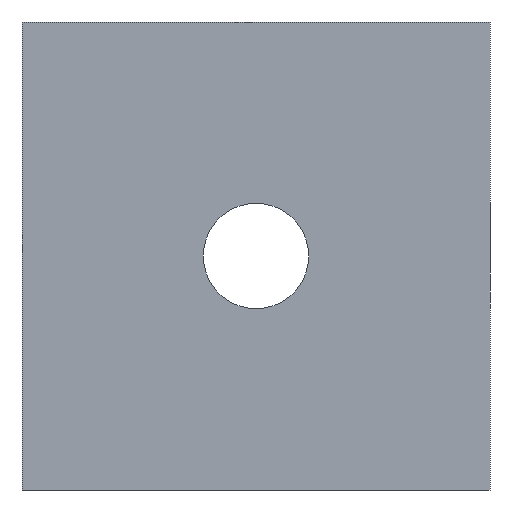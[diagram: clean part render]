
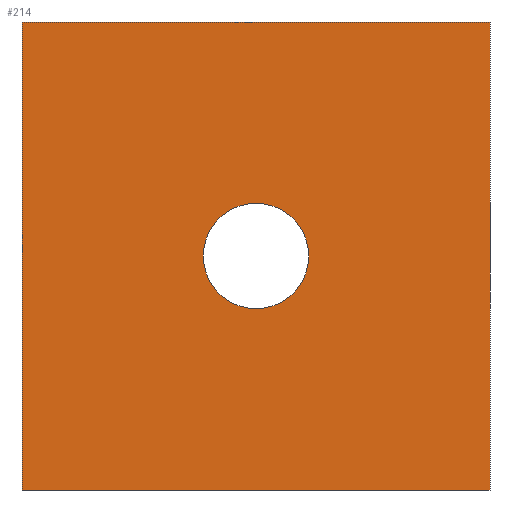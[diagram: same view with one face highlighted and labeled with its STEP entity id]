
A CAD part, left-side view. The second image highlights one B-rep face of the part: STEP entity #214.
In plain terms, the highlighted planar face has unit normal (-1, 0, 0).
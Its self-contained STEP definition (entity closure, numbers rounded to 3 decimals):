
#5 = CARTESIAN_POINT ( 'NONE',  ( 0., 20., 24.5 ) ) ;
#14 = CARTESIAN_POINT ( 'NONE',  ( 0., 0., 0. ) ) ;
#20 = CARTESIAN_POINT ( 'NONE',  ( 0., 40., 0. ) ) ;
#32 = DIRECTION ( 'NONE',  ( 0., 0., 1. ) ) ;
#67 = DIRECTION ( 'NONE',  ( 0., -1., 0. ) ) ;
#82 = CARTESIAN_POINT ( 'NONE',  ( 0., 40., 40. ) ) ;
#87 = DIRECTION ( 'NONE',  ( 1., 0., 0. ) ) ;
#92 = DIRECTION ( 'NONE',  ( -1., 0., 0. ) ) ;
#94 = PLANE ( 'NONE',  #439 ) ;
#108 = CARTESIAN_POINT ( 'NONE',  ( 0., 0., 40. ) ) ;
#111 = DIRECTION ( 'NONE',  ( 0., 0., 1. ) ) ;
#112 = CARTESIAN_POINT ( 'NONE',  ( 0., 20., 20. ) ) ;
#123 = CARTESIAN_POINT ( 'NONE',  ( 0., 0., 0. ) ) ;
#128 = CARTESIAN_POINT ( 'NONE',  ( 0., 0., 0. ) ) ;
#136 = CARTESIAN_POINT ( 'NONE',  ( 0., 20., 15.5 ) ) ;
#150 = CARTESIAN_POINT ( 'NONE',  ( 0., 0., 0. ) ) ;
#152 = DIRECTION ( 'NONE',  ( 0., 0., -1. ) ) ;
#201 = FACE_OUTER_BOUND ( 'NONE', #262, .T. ) ;
#214 = ADVANCED_FACE ( 'NONE', ( #201, #359 ), #94, .T. ) ;
#227 = VERTEX_POINT ( 'NONE', #82 ) ;
#232 = VERTEX_POINT ( 'NONE', #20 ) ;
#235 = VERTEX_POINT ( 'NONE', #123 ) ;
#252 = ORIENTED_EDGE ( 'NONE', *, *, #402, .T. ) ;
#255 = ORIENTED_EDGE ( 'NONE', *, *, #499, .T. ) ;
#262 = EDGE_LOOP ( 'NONE', ( #252, #299, #279, #255 ) ) ;
#277 = ORIENTED_EDGE ( 'NONE', *, *, #420, .T. ) ;
#279 = ORIENTED_EDGE ( 'NONE', *, *, #473, .T. ) ;
#280 = VERTEX_POINT ( 'NONE', #5 ) ;
#291 = EDGE_LOOP ( 'NONE', ( #296, #277 ) ) ;
#296 = ORIENTED_EDGE ( 'NONE', *, *, #474, .T. ) ;
#299 = ORIENTED_EDGE ( 'NONE', *, *, #460, .T. ) ;
#304 = VERTEX_POINT ( 'NONE', #108 ) ;
#312 = VERTEX_POINT ( 'NONE', #136 ) ;
#336 = VECTOR ( 'NONE', #67, 1000. ) ;
#338 = LINE ( 'NONE', #556, #380 ) ;
#359 = FACE_BOUND ( 'NONE', #291, .T. ) ;
#365 = LINE ( 'NONE', #14, #336 ) ;
#370 = VECTOR ( 'NONE', #542, 1000. ) ;
#372 = LINE ( 'NONE', #128, #393 ) ;
#376 = CIRCLE ( 'NONE', #452, 4.5 ) ;
#380 = VECTOR ( 'NONE', #547, 1000. ) ;
#385 = LINE ( 'NONE', #559, #370 ) ;
#393 = VECTOR ( 'NONE', #111, 1000. ) ;
#397 = CIRCLE ( 'NONE', #467, 4.5 ) ;
#402 = EDGE_CURVE ( 'NONE', #232, #235, #365, .T. ) ;
#420 = EDGE_CURVE ( 'NONE', #280, #312, #397, .T. ) ;
#439 = AXIS2_PLACEMENT_3D ( 'NONE', #150, #92, #32 ) ;
#452 = AXIS2_PLACEMENT_3D ( 'NONE', #532, #541, #508 ) ;
#460 = EDGE_CURVE ( 'NONE', #235, #304, #372, .T. ) ;
#467 = AXIS2_PLACEMENT_3D ( 'NONE', #112, #87, #152 ) ;
#473 = EDGE_CURVE ( 'NONE', #304, #227, #385, .T. ) ;
#474 = EDGE_CURVE ( 'NONE', #312, #280, #376, .T. ) ;
#499 = EDGE_CURVE ( 'NONE', #227, #232, #338, .T. ) ;
#508 = DIRECTION ( 'NONE',  ( 0., 0., -1. ) ) ;
#532 = CARTESIAN_POINT ( 'NONE',  ( 0., 20., 20. ) ) ;
#541 = DIRECTION ( 'NONE',  ( 1., 0., 0. ) ) ;
#542 = DIRECTION ( 'NONE',  ( 0., 1., 0. ) ) ;
#547 = DIRECTION ( 'NONE',  ( 0., 0., -1. ) ) ;
#556 = CARTESIAN_POINT ( 'NONE',  ( 0., 40., 0. ) ) ;
#559 = CARTESIAN_POINT ( 'NONE',  ( 0., 0., 40. ) ) ;
